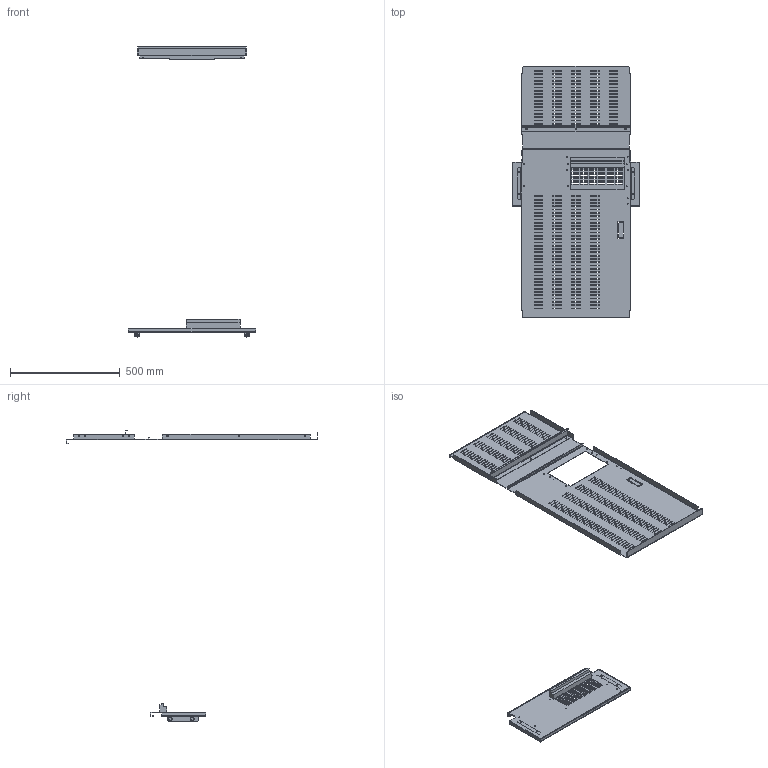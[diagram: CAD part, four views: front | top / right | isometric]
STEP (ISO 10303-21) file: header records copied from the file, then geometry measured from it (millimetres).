
FILE_DESCRIPTION(('CAx-IF Rec.Pracs.---Model Styling and Organization---1.2---2011-12-15','CAx-IF Rec.Pracs.---Geometric and Assembly Validation Properties---4.1---2014-06-16','CAx-IF Rec.Pracs.---PMI Polyline Presentation---2.0---2013-05-24'),'2;1');
FILE_NAME('R5M2UBFRNG12 (2200x600x(400+800)) (6).stp','2021-05-05T12:06:54+03:00',(''),(''),'STEP Interface 4.4 by CT CoreTechnologie','3D_Evolution4.4 by CT CoreTechnologie','');
FILE_SCHEMA(('AUTOMOTIVE_DESIGN { 1 0 10303 214 1 1 1 1 }'));
Length unit declared in the file: millimetre
Products named in the file (10): R5M2UBFR12 (2000õ600õ; M8x16-DIN 6921_thread; M8-DIN 6923 (CM100800)_thread; RB.0835.00.00.0_-00; RB.0839.00.00.0; RB.0837.00.00.0_-00; RB.0837.00.00.0_-01; RB.0792.00.00.0_-00; RB.0834.00.00.1_-01; RB.0836.00.00.0
Assembly tree (15 placements, depth 2):
  R5M2UBFR12 (2000õ600õ
    M8x16-DIN 6921_thread  x4
    M8-DIN 6923 (CM100800)_thread  x4
    RB.0835.00.00.0_-00
    RB.0839.00.00.0
    RB.0837.00.00.0_-00
    RB.0837.00.00.0_-01
    RB.0792.00.00.0_-00
    RB.0834.00.00.1_-01
    RB.0836.00.00.0
Bounding box: 580 x 1145.5 x 1324 mm (x, y, z)
Surface area: 1700180.7 mm2 (no closed solid volume)
Topology: 0 solids, 15 shells, 1826 faces, 5027 edges, 3229 vertices
Faces by surface type: plane 1348, bspline 264, cylinder 214
Entity records: 52640 total; most frequent: CARTESIAN_POINT 10390, ORIENTED_EDGE 8862, DIRECTION 7743, EDGE_CURVE 4433, VECTOR 3979, LINE 3979, VERTEX_POINT 2905, EDGE_LOOP 2204
